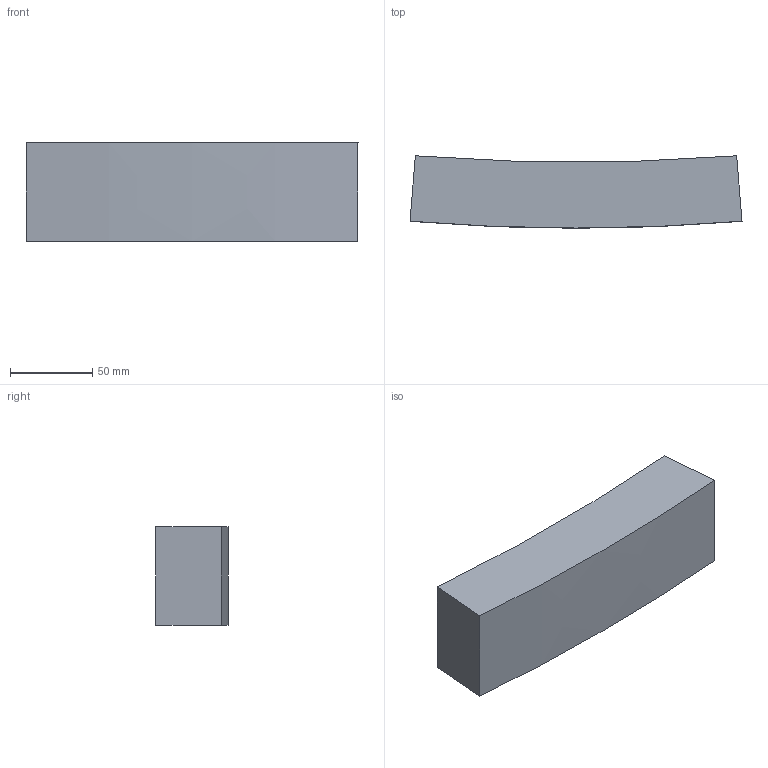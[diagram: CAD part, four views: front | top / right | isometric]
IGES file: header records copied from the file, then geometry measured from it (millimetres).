
Start section:  PTC IGES file: d160-1600_fixbloc_d1200_pk-01.igs
Global section: file name: d160-1600_fixbloc_d1200_pk-01.igs; native system: Creo Parametric by PTC Inc.; preprocessor: 2019030; author: demmerls; organization: Unknown; date: 20200928.102902; units: millimetre
Bounding box: 202.25 x 44 x 60 mm (x, y, z)
Surface area: 44641.1 mm2 (no closed solid volume)
Topology: 0 solids, 0 shells, 6 faces, 24 edges, 24 vertices
Faces by surface type: bspline 6
